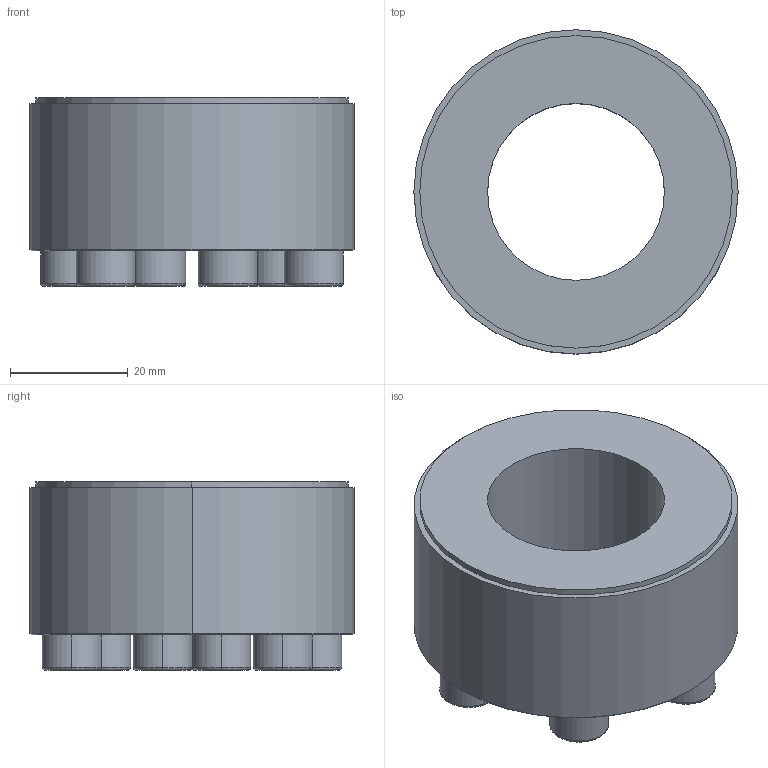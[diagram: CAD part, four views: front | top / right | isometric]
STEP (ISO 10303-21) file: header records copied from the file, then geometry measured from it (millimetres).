
FILE_DESCRIPTION (( 'STEP AP203' ), '1' );
FILE_NAME ('PL-B 30-55.STEP', '2021-10-22T07:47:03', ( '' ), ( '' ), 'SwSTEP 2.0', 'SolidWorks 2018', '' );
FILE_SCHEMA (( 'CONFIG_CONTROL_DESIGN' ));
Length unit declared in the file: millimetre
Products named in the file (1): PL-B 30-55
Bounding box: 55 x 55 x 32 mm (x, y, z)
Volume: 45646.1 mm3; surface area: 11644.9 mm2
Topology: 1 solids, 1 shells, 85 faces, 194 edges, 124 vertices
Faces by surface type: plane 51, cylinder 18, torus 12, cone 4
Entity records: 2465 total; most frequent: DIRECTION 430, CARTESIAN_POINT 404, ORIENTED_EDGE 388, EDGE_CURVE 194, AXIS2_PLACEMENT_3D 150, LINE 130, VECTOR 130, VERTEX_POINT 124
